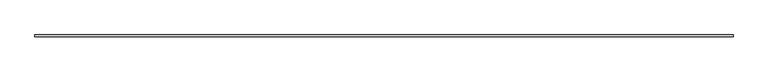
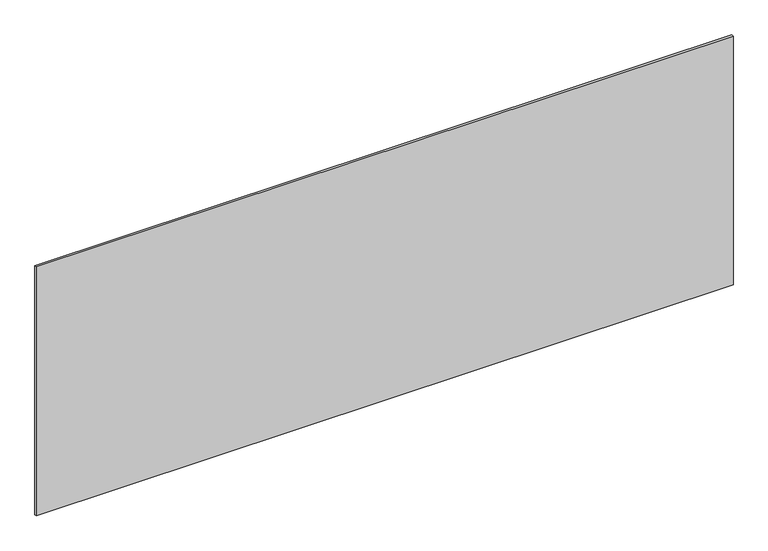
"""IFC4 building model written with IfcOpenShell, lengths in millimetres: plate geometry, システム パネル : 標準."""

import ifcopenshell
import ifcopenshell.guid

model = None  # the IFC model being written
_history = None  # IfcOwnerHistory: only IFC2X3 demands one
_inside = {}  # id of a spatial element -> (the spatial element, [elements in it])
_under = {}  # id of a project, library or spatial element -> (it, [spatial elements below it])
_declared = {}  # id of a project -> (the project, [libraries it declares])
_typed = {}  # id of a type object -> (the type object, [elements of that type])
_made_of = {}  # id of a material, layer set ... -> (it, [elements and type objects made of it])


def new_model(schema):
    """Start an empty IFC model of exactly this schema.

    Asked for "IFC4X3", IfcOpenShell would pick the latest addendum, in which some entities
    have other attributes; the version numbers below select the first issue.
    IFC2X3 requires an IfcOwnerHistory on every rooted entity: one is made here for all.
    """
    global model, _history
    if schema == "IFC4X3":
        model = ifcopenshell.file(schema_version=(4, 3, 0, 0))
    else:
        model = ifcopenshell.file(schema=schema)
    _inside.clear()
    _under.clear()
    _declared.clear()
    _typed.clear()
    _made_of.clear()
    _history = None
    if model.schema == "IFC2X3":
        org = make("IfcOrganization", Name="unknown")
        user = make(
            "IfcPersonAndOrganization",
            ThePerson=make("IfcPerson", FamilyName="unknown"),
            TheOrganization=org,
        )
        app = make(
            "IfcApplication",
            ApplicationDeveloper=org,
            Version="unknown",
            ApplicationFullName="unknown",
            ApplicationIdentifier="unknown",
        )
        _history = make(
            "IfcOwnerHistory",
            OwningUser=user,
            OwningApplication=app,
            ChangeAction="ADDED",
            CreationDate=0,
        )
    return model


def make(cls, **values):
    """One entity of the class cls with the attributes given. An attribute that is None is left unset."""
    return model.create_entity(
        cls, **{name: value for name, value in values.items() if value is not None}
    )


def rooted(cls, **values):
    """An entity with a GlobalId (a new one), such as an element, a storey or a relation."""
    return make(cls, GlobalId=ifcopenshell.guid.new(), OwnerHistory=_history, **values)


def si_unit(unit_type, name, prefix=None):
    """IfcSIUnit, for example si_unit("LENGTHUNIT", "METRE", prefix="MILLI")."""
    return make("IfcSIUnit", UnitType=unit_type, Prefix=prefix, Name=name)


def assignment(units):
    """IfcUnitAssignment: the units of a project."""
    return None if units is None else make("IfcUnitAssignment", Units=units)


def point(xyz):
    """IfcCartesianPoint."""
    return None if xyz is None else make("IfcCartesianPoint", Coordinates=xyz)


def direction(xyz):
    """IfcDirection."""
    return None if xyz is None else make("IfcDirection", DirectionRatios=xyz)


def frame(location, z_axis=None, x_axis=None):
    """IfcAxis2Placement3D, a coordinate frame: its origin and axes. An axis left out is left unset."""
    return make(
        "IfcAxis2Placement3D",
        Location=point(location),
        Axis=direction(z_axis),
        RefDirection=direction(x_axis),
    )


def origin():
    """The frame at (0, 0, 0) with its axes left unset."""
    return frame((0.0, 0.0, 0.0))


def origin_with_axes():
    """The frame at (0, 0, 0) with the z axis (0, 0, 1) and the x axis (1, 0, 0) written out."""
    return frame((0.0, 0.0, 0.0), z_axis=(0.0, 0.0, 1.0), x_axis=(1.0, 0.0, 0.0))


def place(relative_to, where):
    """IfcLocalPlacement: puts the frame where relative to a parent placement (None: the world)."""
    return make(
        "IfcLocalPlacement", PlacementRelTo=relative_to, RelativePlacement=where
    )


def context(
    kind, dimensions, precision=None, world=None, true_north=None, identifier=None
):
    """IfcGeometricRepresentationContext, for example the 3D "Model" context."""
    return make(
        "IfcGeometricRepresentationContext",
        ContextIdentifier=identifier,
        ContextType=kind,
        CoordinateSpaceDimension=dimensions,
        Precision=precision,
        WorldCoordinateSystem=world,
        TrueNorth=true_north,
    )


def project(units=None, contexts=None):
    """IfcProject with its units and contexts."""
    return rooted(
        "IfcProject",
        Name="project",
        RepresentationContexts=contexts,
        UnitsInContext=assignment(units),
    )


def spatial(cls, under=None, at=None, **own):
    """A site, building, storey or space (cls), placed at a placement, below another one or the project."""
    s = rooted(cls, ObjectPlacement=at, **own)
    if under is not None:
        _under.setdefault(under.id(), (under, []))[1].append(s)
    return s


def polyline(points):
    """IfcPolyline through the points."""
    return make("IfcPolyline", Points=[point(p) for p in points])


def outline(outer, holes=None, kind="AREA"):
    """IfcArbitraryClosedProfileDef: a profile drawn as a closed curve; with holes, ...WithVoids."""
    if holes is None:
        return make("IfcArbitraryClosedProfileDef", ProfileType=kind, OuterCurve=outer)
    return make(
        "IfcArbitraryProfileDefWithVoids",
        ProfileType=kind,
        OuterCurve=outer,
        InnerCurves=holes,
    )


def extrude(swept, where, along, depth):
    """IfcExtrudedAreaSolid: the profile swept, set in the frame where, extruded along a direction by depth."""
    return make(
        "IfcExtrudedAreaSolid",
        SweptArea=swept,
        Position=where,
        ExtrudedDirection=direction(along),
        Depth=depth,
    )


def shape(context_of_items, identifier, shape_type, items):
    """IfcShapeRepresentation: the items that make up one representation, for example the "Body"."""
    return make(
        "IfcShapeRepresentation",
        ContextOfItems=context_of_items,
        RepresentationIdentifier=identifier,
        RepresentationType=shape_type,
        Items=items,
    )


def source(mapping_origin, context_of_items, identifier, shape_type, items):
    """IfcRepresentationMap: a shape defined once, which mapped items show again and again."""
    return make(
        "IfcRepresentationMap",
        MappingOrigin=mapping_origin,
        MappedRepresentation=shape(context_of_items, identifier, shape_type, items),
    )


def transform(
    local_origin,
    x_axis=None,
    y_axis=None,
    z_axis=None,
    scale=None,
    scale2=None,
    scale3=None,
    uniform=True,
):
    """IfcCartesianTransformationOperator3D, or its non-uniform kind. x_axis, y_axis, z_axis: its Axis1, 2, 3."""
    if uniform:
        return make(
            "IfcCartesianTransformationOperator3D",
            Axis1=direction(x_axis),
            Axis2=direction(y_axis),
            LocalOrigin=point(local_origin),
            Scale=scale,
            Axis3=direction(z_axis),
        )
    return make(
        "IfcCartesianTransformationOperator3DnonUniform",
        Axis1=direction(x_axis),
        Axis2=direction(y_axis),
        LocalOrigin=point(local_origin),
        Scale=scale,
        Axis3=direction(z_axis),
        Scale2=scale2,
        Scale3=scale3,
    )


def mapped(mapping_source, mapping_target):
    """IfcMappedItem: shows the shape of a source again, moved by a transform."""
    return make(
        "IfcMappedItem", MappingSource=mapping_source, MappingTarget=mapping_target
    )


def made_of(thing, what):
    """Note that an element or type object is made of a material, layer set ...; save() writes the relation."""
    if what is not None:
        _made_of.setdefault(what.id(), (what, []))[1].append(thing)
    return thing


def element(
    cls,
    number,
    at=None,
    inside=None,
    cuts=None,
    type_object=None,
    material=None,
    context=None,
    identifier="Body",
    shape_type=None,
    held_by="IfcProductDefinitionShape",
    body=None,
    shapes=None,
    **own,
):
    """One element of the class cls, such as IfcWall. Its Tag is "e" and its number.

    at: its placement. inside: the storey or other place that contains it. cuts: it is an
    opening in that element (IfcRelVoidsElement). A single representation is given by context,
    identifier, shape_type and body (its items); several are given by shapes. held_by: the class
    of the entity that holds the representations. save() writes the other relations.
    """
    e = rooted(cls, Tag="e%d" % number, ObjectPlacement=at, **own)
    if body is not None:
        shapes = [shape(context, identifier, shape_type, body)]
    if shapes is not None:
        e.Representation = make(held_by, Representations=shapes)
    if inside is not None:
        _inside.setdefault(inside.id(), (inside, []))[1].append(e)
    if cuts is not None:
        rooted(
            "IfcRelVoidsElement", RelatingBuildingElement=cuts, RelatedOpeningElement=e
        )
    if type_object is not None:
        _typed.setdefault(type_object.id(), (type_object, []))[1].append(e)
    return made_of(e, material)


def aggregate(whole, parts):
    """IfcRelAggregates: a whole, such as a stair, and the parts it consists of."""
    return rooted("IfcRelAggregates", RelatingObject=whole, RelatedObjects=parts)


def save(model, path):
    """Write the relations noted so far, then the file.

    IfcRelAggregates (storeys below a building ...), IfcRelContainedInSpatialStructure (elements
    in a storey), IfcRelDefinesByType, IfcRelAssociatesMaterial and IfcRelDeclares: one each for
    every whole, place, type object, material and project.
    """
    for whole, parts in _under.values():
        aggregate(whole, parts)
    for where, things in _inside.values():
        rooted(
            "IfcRelContainedInSpatialStructure",
            RelatedElements=things,
            RelatingStructure=where,
        )
    for kind, things in _typed.values():
        rooted("IfcRelDefinesByType", RelatedObjects=things, RelatingType=kind)
    for what, things in _made_of.values():
        rooted("IfcRelAssociatesMaterial", RelatedObjects=things, RelatingMaterial=what)
    for by, libraries in _declared.values():
        rooted("IfcRelDeclares", RelatingContext=by, RelatedDefinitions=libraries)
    model.write(path)


def plate_007849ab(model_context):
    return source(origin(), model_context, "Body", "SweptSolid", [
        extrude(outline(polyline([(1697.5, -5.0), (-1697.5, -5.0), (-1697.5, 5.0), (1697.5, 5.0), (1697.5, -5.0)])), origin_with_axes(), (0.0, 0.0, 1.0), 1281.207091),
    ])


if __name__ == "__main__":
    model = new_model("IFC4")
    model_context = context("Model", 3, world=origin())
    ifc_project = project(units=[si_unit("LENGTHUNIT", "METRE", prefix="MILLI")], contexts=[model_context])
    site = spatial("IfcSite", under=ifc_project)
    building = spatial("IfcBuilding", under=site)
    placement = place(None, origin())
    plate_shape = plate_007849ab(model_context)
    element("IfcPlate", 1, ObjectType="システム パネル : 標準", at=placement, inside=building, context=model_context, shape_type="MappedRepresentation", body=[
        mapped(plate_shape, transform((0.0, 0.0, 0.0), x_axis=(1.0, 0.0, 0.0), y_axis=(0.0, 1.0, 0.0), z_axis=(0.0, 0.0, 1.0))),
    ])
    save(model, "model.ifc")
